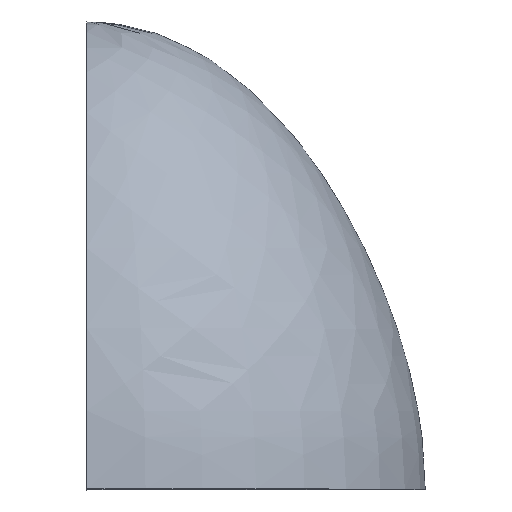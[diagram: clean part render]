
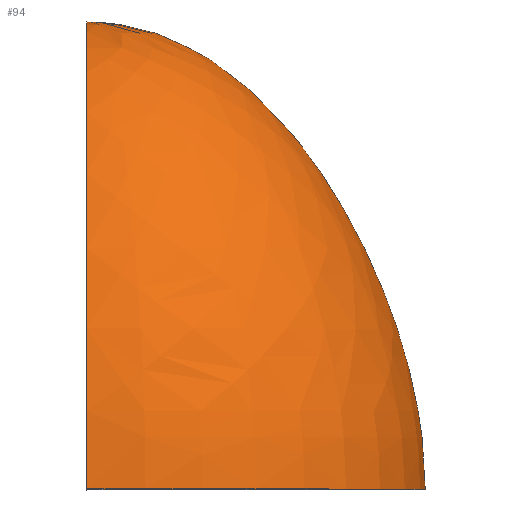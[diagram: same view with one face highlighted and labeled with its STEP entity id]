
A CAD part, top view. The second image highlights one B-rep face of the part: STEP entity #94.
In plain terms, the highlighted face is a revolution surface.
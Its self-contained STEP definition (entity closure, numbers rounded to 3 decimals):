
#52=CARTESIAN_POINT('Control Point',(0.,0.,84.)) ;
#53=CARTESIAN_POINT('Control Point',(0.,28.644,84.)) ;
#54=CARTESIAN_POINT('Control Point',(0.,61.225,73.742)) ;
#55=CARTESIAN_POINT('Control Point',(0.,97.742,53.225)) ;
#56=CARTESIAN_POINT('Control Point',(0.,116.,28.644)) ;
#57=CARTESIAN_POINT('Control Point',(0.,116.,0.)) ;
#58=CARTESIAN_POINT('Axis1P Location',(0.,0.,0.)) ;
#63=CARTESIAN_POINT('Control Point',(0.,0.,-84.)) ;
#64=CARTESIAN_POINT('Control Point',(0.,28.644,-84.)) ;
#65=CARTESIAN_POINT('Control Point',(0.,61.225,-73.742)) ;
#66=CARTESIAN_POINT('Control Point',(0.,97.742,-53.225)) ;
#67=CARTESIAN_POINT('Control Point',(0.,116.,-28.644)) ;
#68=CARTESIAN_POINT('Control Point',(0.,116.,0.)) ;
#69=CARTESIAN_POINT('Vertex',(0.,0.,-84.)) ;
#71=CARTESIAN_POINT('Vertex',(0.,116.,0.)) ;
#75=CARTESIAN_POINT('Control Point',(0.,0.,84.)) ;
#76=CARTESIAN_POINT('Control Point',(0.,28.644,84.)) ;
#77=CARTESIAN_POINT('Control Point',(0.,61.225,73.742)) ;
#78=CARTESIAN_POINT('Control Point',(0.,97.742,53.225)) ;
#79=CARTESIAN_POINT('Control Point',(0.,116.,28.644)) ;
#80=CARTESIAN_POINT('Control Point',(0.,116.,0.)) ;
#81=CARTESIAN_POINT('Vertex',(0.,0.,84.)) ;
#84=CARTESIAN_POINT('Axis2P3D Location',(0.,0.,0.)) ;
#59=DIRECTION('Axis1P Direction',(0.,1.,0.)) ;
#85=DIRECTION('Axis2P3D Direction',(0.,1.,0.)) ;
#86=AXIS2_PLACEMENT_3D('Circle Axis2P3D',#84,#85,$) ;
#90=ORIENTED_EDGE('',*,*,#73,.T.) ;
#91=ORIENTED_EDGE('',*,*,#83,.F.) ;
#92=ORIENTED_EDGE('',*,*,#88,.T.) ;
#94=ADVANCED_FACE('PartBody',(#93),#61,.T.) ;
#60=AXIS1_PLACEMENT('Revolution Surface Axis1P',#58,#59) ;
#51=B_SPLINE_CURVE_WITH_KNOTS('',5,(#52,#53,#54,#55,#56,#57),.UNSPECIFIED.,.F.,.U.,(6,6),(0.,143.22),.UNSPECIFIED.) ;
#62=B_SPLINE_CURVE_WITH_KNOTS('',5,(#63,#64,#65,#66,#67,#68),.UNSPECIFIED.,.F.,.U.,(6,6),(0.,143.22),.UNSPECIFIED.) ;
#74=B_SPLINE_CURVE_WITH_KNOTS('',5,(#75,#76,#77,#78,#79,#80),.UNSPECIFIED.,.F.,.U.,(6,6),(0.,143.22),.UNSPECIFIED.) ;
#87=CIRCLE('generated circle',#86,84.) ;
#73=EDGE_CURVE('',#70,#72,#62,.T.) ;
#83=EDGE_CURVE('',#82,#72,#74,.T.) ;
#88=EDGE_CURVE('',#82,#70,#87,.T.) ;
#89=EDGE_LOOP('',(#90,#91,#92)) ;
#93=FACE_OUTER_BOUND('',#89,.T.) ;
#61=SURFACE_OF_REVOLUTION('Surface of Revolution',#51,#60) ;
#70=VERTEX_POINT('',#69) ;
#72=VERTEX_POINT('',#71) ;
#82=VERTEX_POINT('',#81) ;
